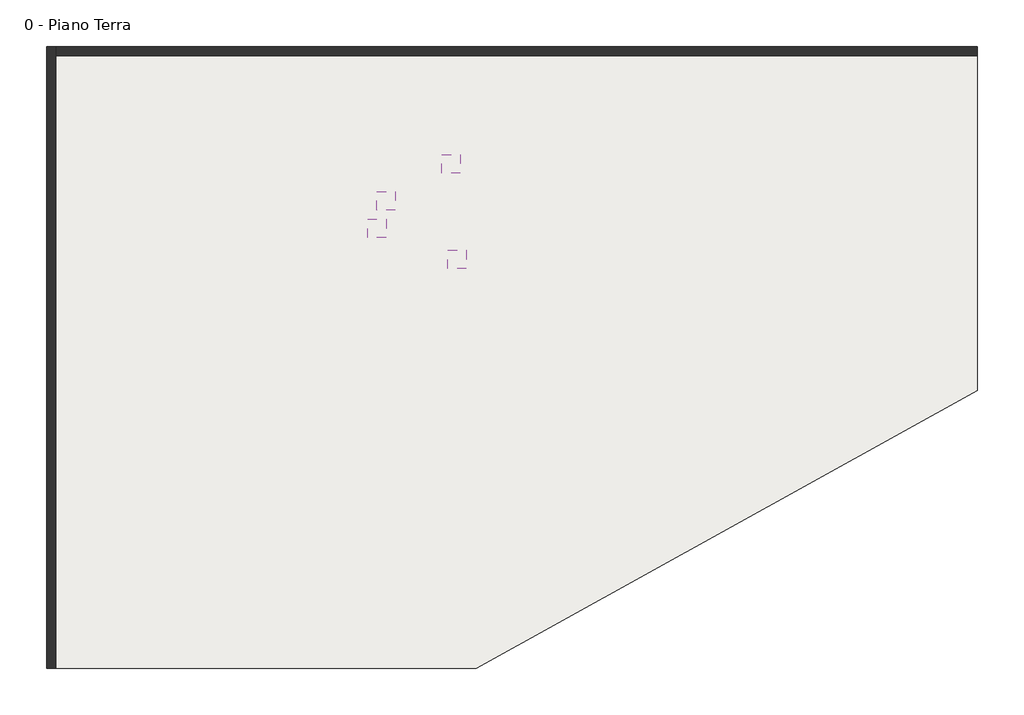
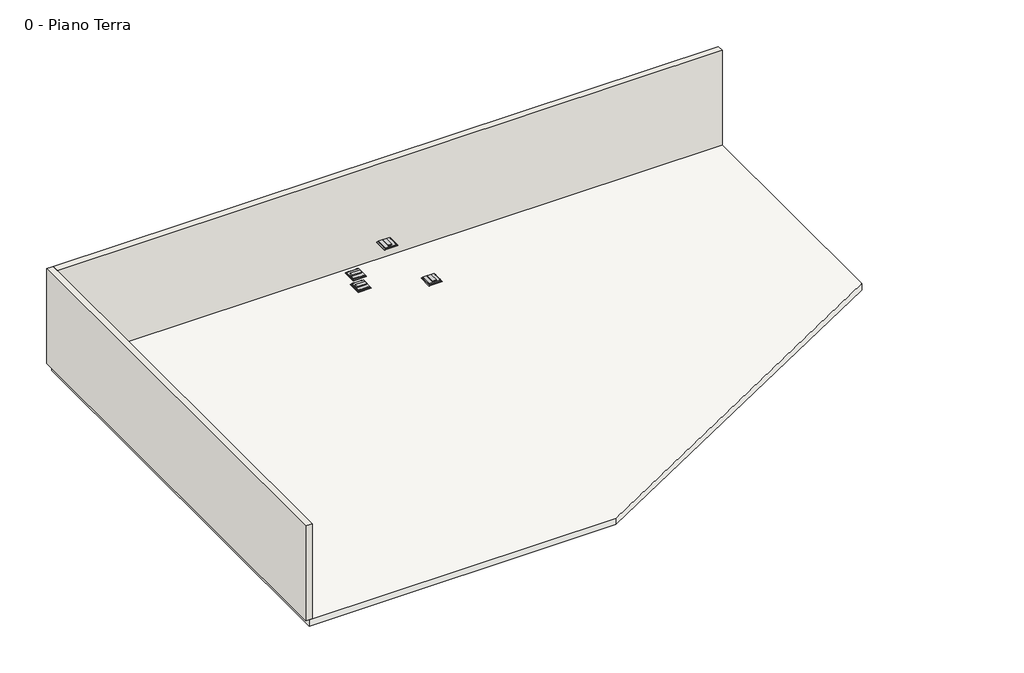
# One storey: 4 light fixtures, 2 walls, 1 slab.
"""IFC4 building model written with IfcOpenShell, lengths in millimetres."""

import ifcopenshell
import ifcopenshell.guid

model = None  # the IFC model being written
_history = None  # IfcOwnerHistory: only IFC2X3 demands one
_inside = {}  # id of a spatial element -> (the spatial element, [elements in it])
_under = {}  # id of a project, library or spatial element -> (it, [spatial elements below it])
_declared = {}  # id of a project -> (the project, [libraries it declares])
_typed = {}  # id of a type object -> (the type object, [elements of that type])
_made_of = {}  # id of a material, layer set ... -> (it, [elements and type objects made of it])


def new_model(schema):
    """Start an empty IFC model of exactly this schema.

    Asked for "IFC4X3", IfcOpenShell would pick the latest addendum, in which some entities
    have other attributes; the version numbers below select the first issue.
    IFC2X3 requires an IfcOwnerHistory on every rooted entity: one is made here for all.
    """
    global model, _history
    if schema == "IFC4X3":
        model = ifcopenshell.file(schema_version=(4, 3, 0, 0))
    else:
        model = ifcopenshell.file(schema=schema)
    _inside.clear()
    _under.clear()
    _declared.clear()
    _typed.clear()
    _made_of.clear()
    _history = None
    if model.schema == "IFC2X3":
        org = make("IfcOrganization", Name="unknown")
        user = make(
            "IfcPersonAndOrganization",
            ThePerson=make("IfcPerson", FamilyName="unknown"),
            TheOrganization=org,
        )
        app = make(
            "IfcApplication",
            ApplicationDeveloper=org,
            Version="unknown",
            ApplicationFullName="unknown",
            ApplicationIdentifier="unknown",
        )
        _history = make(
            "IfcOwnerHistory",
            OwningUser=user,
            OwningApplication=app,
            ChangeAction="ADDED",
            CreationDate=0,
        )
    return model


def make(cls, **values):
    """One entity of the class cls with the attributes given. An attribute that is None is left unset."""
    return model.create_entity(
        cls, **{name: value for name, value in values.items() if value is not None}
    )


def rooted(cls, **values):
    """An entity with a GlobalId (a new one), such as an element, a storey or a relation."""
    return make(cls, GlobalId=ifcopenshell.guid.new(), OwnerHistory=_history, **values)


def si_unit(unit_type, name, prefix=None):
    """IfcSIUnit, for example si_unit("LENGTHUNIT", "METRE", prefix="MILLI")."""
    return make("IfcSIUnit", UnitType=unit_type, Prefix=prefix, Name=name)


def assignment(units):
    """IfcUnitAssignment: the units of a project."""
    return None if units is None else make("IfcUnitAssignment", Units=units)


def point(xyz):
    """IfcCartesianPoint."""
    return None if xyz is None else make("IfcCartesianPoint", Coordinates=xyz)


def direction(xyz):
    """IfcDirection."""
    return None if xyz is None else make("IfcDirection", DirectionRatios=xyz)


def frame(location, z_axis=None, x_axis=None):
    """IfcAxis2Placement3D, a coordinate frame: its origin and axes. An axis left out is left unset."""
    return make(
        "IfcAxis2Placement3D",
        Location=point(location),
        Axis=direction(z_axis),
        RefDirection=direction(x_axis),
    )


def origin():
    """The frame at (0, 0, 0) with its axes left unset."""
    return frame((0.0, 0.0, 0.0))


def origin_with_axes():
    """The frame at (0, 0, 0) with the z axis (0, 0, 1) and the x axis (1, 0, 0) written out."""
    return frame((0.0, 0.0, 0.0), z_axis=(0.0, 0.0, 1.0), x_axis=(1.0, 0.0, 0.0))


def place(relative_to, where):
    """IfcLocalPlacement: puts the frame where relative to a parent placement (None: the world)."""
    return make(
        "IfcLocalPlacement", PlacementRelTo=relative_to, RelativePlacement=where
    )


def context(
    kind, dimensions, precision=None, world=None, true_north=None, identifier=None
):
    """IfcGeometricRepresentationContext, for example the 3D "Model" context."""
    return make(
        "IfcGeometricRepresentationContext",
        ContextIdentifier=identifier,
        ContextType=kind,
        CoordinateSpaceDimension=dimensions,
        Precision=precision,
        WorldCoordinateSystem=world,
        TrueNorth=true_north,
    )


def project(units=None, contexts=None):
    """IfcProject with its units and contexts."""
    return rooted(
        "IfcProject",
        Name="project",
        RepresentationContexts=contexts,
        UnitsInContext=assignment(units),
    )


def spatial(cls, under=None, at=None, **own):
    """A site, building, storey or space (cls), placed at a placement, below another one or the project."""
    s = rooted(cls, ObjectPlacement=at, **own)
    if under is not None:
        _under.setdefault(under.id(), (under, []))[1].append(s)
    return s


def polyline(points):
    """IfcPolyline through the points."""
    return make("IfcPolyline", Points=[point(p) for p in points])


def outline(outer, holes=None, kind="AREA"):
    """IfcArbitraryClosedProfileDef: a profile drawn as a closed curve; with holes, ...WithVoids."""
    if holes is None:
        return make("IfcArbitraryClosedProfileDef", ProfileType=kind, OuterCurve=outer)
    return make(
        "IfcArbitraryProfileDefWithVoids",
        ProfileType=kind,
        OuterCurve=outer,
        InnerCurves=holes,
    )


def extrude(swept, where, along, depth):
    """IfcExtrudedAreaSolid: the profile swept, set in the frame where, extruded along a direction by depth."""
    return make(
        "IfcExtrudedAreaSolid",
        SweptArea=swept,
        Position=where,
        ExtrudedDirection=direction(along),
        Depth=depth,
    )


def faces_of(points, faces, orient=None, outer=None):
    """IfcFace entities. A face is a list of loops; a loop is a list of indices into points, from 0.

    orient and outer hold one flag for each loop. By default every Orientation is true, the
    first loop of a face is its IfcFaceOuterBound and the others are IfcFaceBound.
    """
    made = []
    for i, loops in enumerate(faces):
        bounds = []
        for j, loop in enumerate(loops):
            is_outer = j == 0 if outer is None else outer[i][j]
            bounds.append(
                make(
                    "IfcFaceOuterBound" if is_outer else "IfcFaceBound",
                    Bound=make("IfcPolyLoop", Polygon=[points[k] for k in loop]),
                    Orientation=True if orient is None else orient[i][j],
                )
            )
        made.append(make("IfcFace", Bounds=bounds))
    return made


def faceted_brep(points, faces, orient=None, outer=None, voids=None):
    """IfcFacetedBrep: a solid bounded by flat faces; with voids (closed shells), ...WithVoids."""
    shared = [point(p) for p in points]
    hull = make("IfcClosedShell", CfsFaces=faces_of(shared, faces, orient, outer))
    if voids is None:
        return make("IfcFacetedBrep", Outer=hull)
    return make(
        "IfcFacetedBrepWithVoids",
        Outer=hull,
        Voids=[
            make(cls, CfsFaces=faces_of(shared, fs, o, b)) for cls, fs, o, b in voids
        ],
    )


def shape(context_of_items, identifier, shape_type, items):
    """IfcShapeRepresentation: the items that make up one representation, for example the "Body"."""
    return make(
        "IfcShapeRepresentation",
        ContextOfItems=context_of_items,
        RepresentationIdentifier=identifier,
        RepresentationType=shape_type,
        Items=items,
    )


def source(mapping_origin, context_of_items, identifier, shape_type, items):
    """IfcRepresentationMap: a shape defined once, which mapped items show again and again."""
    return make(
        "IfcRepresentationMap",
        MappingOrigin=mapping_origin,
        MappedRepresentation=shape(context_of_items, identifier, shape_type, items),
    )


def transform(
    local_origin,
    x_axis=None,
    y_axis=None,
    z_axis=None,
    scale=None,
    scale2=None,
    scale3=None,
    uniform=True,
):
    """IfcCartesianTransformationOperator3D, or its non-uniform kind. x_axis, y_axis, z_axis: its Axis1, 2, 3."""
    if uniform:
        return make(
            "IfcCartesianTransformationOperator3D",
            Axis1=direction(x_axis),
            Axis2=direction(y_axis),
            LocalOrigin=point(local_origin),
            Scale=scale,
            Axis3=direction(z_axis),
        )
    return make(
        "IfcCartesianTransformationOperator3DnonUniform",
        Axis1=direction(x_axis),
        Axis2=direction(y_axis),
        LocalOrigin=point(local_origin),
        Scale=scale,
        Axis3=direction(z_axis),
        Scale2=scale2,
        Scale3=scale3,
    )


def mapped(mapping_source, mapping_target):
    """IfcMappedItem: shows the shape of a source again, moved by a transform."""
    return make(
        "IfcMappedItem", MappingSource=mapping_source, MappingTarget=mapping_target
    )


def made_of(thing, what):
    """Note that an element or type object is made of a material, layer set ...; save() writes the relation."""
    if what is not None:
        _made_of.setdefault(what.id(), (what, []))[1].append(thing)
    return thing


def element(
    cls,
    number,
    at=None,
    inside=None,
    cuts=None,
    type_object=None,
    material=None,
    context=None,
    identifier="Body",
    shape_type=None,
    held_by="IfcProductDefinitionShape",
    body=None,
    shapes=None,
    **own,
):
    """One element of the class cls, such as IfcWall. Its Tag is "e" and its number.

    at: its placement. inside: the storey or other place that contains it. cuts: it is an
    opening in that element (IfcRelVoidsElement). A single representation is given by context,
    identifier, shape_type and body (its items); several are given by shapes. held_by: the class
    of the entity that holds the representations. save() writes the other relations.
    """
    e = rooted(cls, Tag="e%d" % number, ObjectPlacement=at, **own)
    if body is not None:
        shapes = [shape(context, identifier, shape_type, body)]
    if shapes is not None:
        e.Representation = make(held_by, Representations=shapes)
    if inside is not None:
        _inside.setdefault(inside.id(), (inside, []))[1].append(e)
    if cuts is not None:
        rooted(
            "IfcRelVoidsElement", RelatingBuildingElement=cuts, RelatedOpeningElement=e
        )
    if type_object is not None:
        _typed.setdefault(type_object.id(), (type_object, []))[1].append(e)
    return made_of(e, material)


def aggregate(whole, parts):
    """IfcRelAggregates: a whole, such as a stair, and the parts it consists of."""
    return rooted("IfcRelAggregates", RelatingObject=whole, RelatedObjects=parts)


def save(model, path):
    """Write the relations noted so far, then the file.

    IfcRelAggregates (storeys below a building ...), IfcRelContainedInSpatialStructure (elements
    in a storey), IfcRelDefinesByType, IfcRelAssociatesMaterial and IfcRelDeclares: one each for
    every whole, place, type object, material and project.
    """
    for whole, parts in _under.values():
        aggregate(whole, parts)
    for where, things in _inside.values():
        rooted(
            "IfcRelContainedInSpatialStructure",
            RelatedElements=things,
            RelatingStructure=where,
        )
    for kind, things in _typed.values():
        rooted("IfcRelDefinesByType", RelatedObjects=things, RelatingType=kind)
    for what, things in _made_of.values():
        rooted("IfcRelAssociatesMaterial", RelatedObjects=things, RelatingMaterial=what)
    for by, libraries in _declared.values():
        rooted("IfcRelDeclares", RelatingContext=by, RelatedDefinitions=libraries)
    model.write(path)


def light_fixture_1bb1707f(model_context):
    return source(origin(), model_context, "Body", "SolidModel", [
        faceted_brep([(600.0, -12.0, 83.375), (600.0, -12.0, 94.5), (600.0, -588.0, 94.5), (600.0, -588.0, 83.375), (0.0, -12.0, 83.375), (0.0, -588.0, 83.375), (0.0, -588.0, 94.5), (0.0, -12.0, 94.5), (598.0, -12.0, 83.375), (2.0, -12.0, 83.375), (598.0, -586.0, 94.5), (2.0, -586.0, 94.5), (2.0, -14.0, 94.5), (598.0, -14.0, 94.5), (598.0, -14.0, 85.375), (2.0, -14.0, 85.375), (598.0, -586.0, 85.375), (2.0, -586.0, 85.375), (2.0, -588.0, 83.375), (598.0, -588.0, 83.375)], [[[0, 1, 2, 3]], [[4, 5, 6, 7]], [[7, 1, 0, 8, 9, 4]], [[7, 6, 2, 1], [10, 11, 12, 13]], [[14, 13, 12, 15]], [[16, 14, 15, 17]], [[10, 16, 17, 11]], [[3, 2, 6, 5, 18, 19]], [[0, 3, 19, 18, 5, 4, 9, 8]], [[10, 13, 14, 16]], [[12, 11, 17, 15]]]),
        extrude(outline(polyline([(376.0, -512.0), (224.0, -512.0), (224.0, -88.0), (376.0, -88.0), (376.0, -512.0)])), origin_with_axes(), (0.0, 0.0, 1.0), 47.5),
        extrude(outline(polyline([(35.0, -100.0), (49.0, -100.0), (49.0, -150.0), (35.0, -150.0), (35.0, -100.0)])), frame((0.0, 0.0, 47.5), z_axis=(0.0, 0.0, 1.0), x_axis=(1.0, 0.0, 0.0)), (0.0, 0.0, 1.0), 5.0),
        extrude(outline(polyline([(49.0, -500.0), (35.0, -500.0), (35.0, -450.0), (49.0, -450.0), (49.0, -500.0)])), frame((0.0, 0.0, 47.5), z_axis=(0.0, 0.0, 1.0), x_axis=(1.0, 0.0, 0.0)), (0.0, 0.0, 1.0), 5.0),
        extrude(outline(polyline([(551.0, -100.0), (565.0, -100.0), (565.0, -150.0), (551.0, -150.0), (551.0, -100.0)])), frame((0.0, 0.0, 47.5), z_axis=(0.0, 0.0, 1.0), x_axis=(1.0, 0.0, 0.0)), (0.0, 0.0, 1.0), 5.0),
        extrude(outline(polyline([(565.0, -500.0), (551.0, -500.0), (551.0, -450.0), (565.0, -450.0), (565.0, -500.0)])), frame((0.0, 0.0, 47.5), z_axis=(0.0, 0.0, 1.0), x_axis=(1.0, 0.0, 0.0)), (0.0, 0.0, 1.0), 5.0),
        extrude(outline(polyline([(551.0, -565.0), (49.0, -565.0), (49.0, -35.0), (551.0, -35.0), (551.0, -565.0)])), frame((0.0, 0.0, 47.5), z_axis=(0.0, 0.0, 1.0), x_axis=(1.0, 0.0, 0.0)), (0.0, 0.0, 1.0), 35.875),
        extrude(outline(polyline([(600.0, 0.0), (600.0, -600.0), (0.0, -600.0), (0.0, 0.0), (600.0, 0.0)]), holes=[polyline([(556.0, -44.0), (44.0, -44.0), (44.0, -556.0), (556.0, -556.0), (556.0, -44.0)])]), frame((0.0, 0.0, 94.5), z_axis=(0.0, 0.0, 1.0), x_axis=(1.0, 0.0, 0.0)), (0.0, 0.0, 1.0), 15.5),
        extrude(outline(polyline([(556.0, -44.0), (556.0, -556.0), (44.0, -556.0), (44.0, -44.0), (556.0, -44.0)])), frame((0.0, 0.0, 94.5), z_axis=(0.0, 0.0, 1.0), x_axis=(1.0, 0.0, 0.0)), (0.0, 0.0, 1.0), 15.5),
    ])


def light_fixture_02ca46bd(model_context):
    return source(origin(), model_context, "Body", "SolidModel", [
        extrude(outline(polyline([(212.0, 76.0), (212.0, -76.0), (-212.0, -76.0), (-212.0, 76.0), (212.0, 76.0)])), frame((0.0, 0.0, -110.0), z_axis=(0.0, 0.0, 1.0), x_axis=(1.0, 0.0, 0.0)), (0.0, 0.0, 1.0), 51.0),
        extrude(outline(polyline([(-200.0, -265.0), (-200.0, -251.0), (-150.0, -251.0), (-150.0, -265.0), (-200.0, -265.0)])), frame((0.0, 0.0, -59.0), z_axis=(0.0, 0.0, 1.0), x_axis=(1.0, 0.0, 0.0)), (0.0, 0.0, 1.0), 5.9541326),
        extrude(outline(polyline([(200.0, -251.0), (200.0, -265.0), (150.0, -265.0), (150.0, -251.0), (200.0, -251.0)])), frame((0.0, 0.0, -59.0), z_axis=(0.0, 0.0, 1.0), x_axis=(1.0, 0.0, 0.0)), (0.0, 0.0, 1.0), 5.9541326),
        extrude(outline(polyline([(-200.0, 251.0), (-200.0, 265.0), (-150.0, 265.0), (-150.0, 251.0), (-200.0, 251.0)])), frame((0.0, 0.0, -59.0), z_axis=(0.0, 0.0, 1.0), x_axis=(1.0, 0.0, 0.0)), (0.0, 0.0, 1.0), 5.9541326),
        extrude(outline(polyline([(200.0, 265.0), (200.0, 251.0), (150.0, 251.0), (150.0, 265.0), (200.0, 265.0)])), frame((0.0, 0.0, -59.0), z_axis=(0.0, 0.0, 1.0), x_axis=(1.0, 0.0, 0.0)), (0.0, 0.0, 1.0), 5.9541326),
        extrude(outline(polyline([(256.0, 251.0), (256.0, -251.0), (-256.0, -251.0), (-256.0, 251.0), (256.0, 251.0)])), frame((0.0, 0.0, -59.0), z_axis=(0.0, 0.0, 1.0), x_axis=(1.0, 0.0, 0.0)), (0.0, 0.0, 1.0), 42.0955541),
        extrude(outline(polyline([(265.0, -16.9044459), (-265.0, -16.9044459), (-265.0, -5.0), (-263.0, -5.0), (-263.0, -14.9044459), (263.0, -14.9044459), (263.0, -5.0), (265.0, -5.0), (265.0, -16.9044459)])), frame((-263.0, 0.0, 0.0), z_axis=(1.0, 0.0, 0.0), x_axis=(0.0, 1.0, 0.0)), (0.0, 0.0, 1.0), 526.0),
        extrude(outline(polyline([(256.0, 256.0), (256.0, -256.0), (-256.0, -256.0), (-256.0, 256.0), (256.0, 256.0)])), frame((0.0, 0.0, -5.0), z_axis=(0.0, 0.0, 1.0), x_axis=(1.0, 0.0, 0.0)), (0.0, 0.0, 1.0), 5.0),
        faceted_brep([(263.0, 265.0, -16.9044459), (263.0, -265.0, -16.9044459), (263.0, -265.0, -5.0), (263.0, 265.0, -5.0), (265.0, -265.0, -16.9044459), (265.0, 265.0, -16.9044459), (265.0, 265.0, -5.0), (265.0, -265.0, -5.0), (300.0, 300.0, 0.0), (-300.0, 300.0, 0.0), (-300.0, -300.0, 0.0), (300.0, -300.0, 0.0), (256.0, 256.0, 0.0), (256.0, -256.0, 0.0), (-256.0, -256.0, 0.0), (-256.0, 256.0, 0.0), (-263.0, -265.0, -16.9044459), (-263.0, 265.0, -16.9044459), (-263.0, 265.0, -5.0), (-263.0, -265.0, -5.0), (-265.0, 265.0, -16.9044459), (-265.0, -265.0, -16.9044459), (-265.0, -265.0, -5.0), (-265.0, 265.0, -5.0), (300.0, 300.0, -5.0), (300.0, -300.0, -5.0), (-300.0, -300.0, -5.0), (-300.0, 300.0, -5.0), (256.0, 256.0, -5.0), (-256.0, 256.0, -5.0), (-256.0, -256.0, -5.0), (256.0, -256.0, -5.0)], [[[0, 1, 2, 3]], [[4, 5, 6, 7]], [[1, 4, 7, 2]], [[1, 0, 5, 4]], [[5, 0, 3, 6]], [[8, 9, 10, 11], [12, 13, 14, 15]], [[16, 17, 18, 19]], [[20, 21, 22, 23]], [[21, 16, 19, 22]], [[17, 16, 21, 20]], [[17, 20, 23, 18]], [[24, 25, 26, 27], [3, 2, 7, 6], [19, 18, 23, 22], [28, 29, 30, 31]], [[9, 8, 24, 27]], [[10, 9, 27, 26]], [[11, 10, 26, 25]], [[8, 11, 25, 24]], [[13, 12, 28, 31]], [[14, 13, 31, 30]], [[15, 14, 30, 29]], [[12, 15, 29, 28]]]),
    ])


model = new_model("IFC4")

# Units and contexts
model_context = context("Model", 3, world=origin())
ifc_project = project(units=[si_unit("LENGTHUNIT", "METRE", prefix="MILLI")], contexts=[model_context])

# Site, building, storey
site = spatial("IfcSite", under=ifc_project)
building = spatial("IfcBuilding", under=site)
storey = spatial("IfcBuildingStorey", under=building, Name="0 - Piano Terra", Elevation=0.0)

# Light fixtures
placement = place(None, origin())
light_fixture_shape = light_fixture_1bb1707f(model_context)
element("IfcLightFixture", 1, ObjectType="TAURUS_CLIP_ATENALUX_MOT : 32W LED-F 4000K IRC_90 MOT RAL 9003 OPACO IP65", at=placement, inside=storey, context=model_context, shape_type="MappedRepresentation", body=[
    mapped(light_fixture_shape, transform((-2205.4723603, 5749.7945472, 3500.0), x_axis=(0.0, -1.0, 0.0), y_axis=(-1.0, 0.0, 0.0), z_axis=(0.0, 0.0, -1.0))),
])
element("IfcLightFixture", 2, ObjectType="TAURUS_CLIP_ATENALUX_MOT : 32W LED-F 4000K IRC_90 MOT RAL 9003 OPACO IP65", at=placement, inside=storey, context=model_context, shape_type="MappedRepresentation", body=[
    mapped(light_fixture_shape, transform((-105.4723603, 6349.7945472, 3500.0), x_axis=(1.0, 0.0, 0.0), y_axis=(0.0, -1.0, 0.0), z_axis=(0.0, 0.0, -1.0))),
])
light_fixture_2_shape = light_fixture_02ca46bd(model_context)
element("IfcLightFixture", 3, ObjectType="TAURUS_CLIP_ATENALUX_MOT-In : 32W LED-F 4000K IRC_90 MOT RAL 9003 OPACO IP65", at=placement, inside=storey, context=model_context, shape_type="MappedRepresentation", body=[
    mapped(light_fixture_2_shape, transform((-2205.4723603, 4549.7945472, 3500.0), x_axis=(-1.0, 0.0, 0.0), y_axis=(0.0, 1.0, 0.0), z_axis=(0.0, 0.0, -1.0))),
])
element("IfcLightFixture", 4, ObjectType="TAURUS_CLIP_ATENALUX_MOT-In : 32W LED-F 4000K IRC_90 MOT RAL 9003 OPACO IP65", at=placement, inside=storey, context=model_context, shape_type="MappedRepresentation", body=[
    mapped(light_fixture_2_shape, transform((394.5276397, 3549.7945472, 3500.0), x_axis=(0.0, 1.0, 0.0), y_axis=(1.0, 0.0, 0.0), z_axis=(0.0, 0.0, -1.0))),
])

# Slab
element("IfcSlab", 5, ObjectType="Latero Cementizio - 30 cm", at=placement, inside=storey, context=model_context, shape_type="SweptSolid", body=[
    extrude(outline(polyline([(17244.5276397, 10299.7945472), (17244.5276397, -700.2054528), (1008.0978423, -9700.2054528), (-12755.4723603, -9700.2054528), (-12755.4723603, 10299.7945472), (17244.5276397, 10299.7945472)])), frame((0.0, 0.0, -300.0), z_axis=(0.0, 0.0, 1.0), x_axis=(1.0, 0.0, 0.0)), (0.0, 0.0, 1.0), 300.0),
])

# Walls
element("IfcWall", 6, ObjectType="Generico - 30 cm", at=placement, inside=storey, context=model_context, shape_type="Brep", body=[
    faceted_brep([(-12905.4723603, 10449.7945472, 0.0), (-12905.4723603, -9700.2054528, 0.0), (-12905.4723603, -9700.2054528, 4500.0), (-12905.4723603, 10449.7945472, 4500.0), (-12605.4723603, 10449.7945472, 0.0), (-12605.4723603, 10449.7945472, 4500.0), (-12605.4723603, 10149.7945472, 4500.0), (-12605.4723603, -9700.2054528, 4500.0), (-12605.4723603, -9700.2054528, 0.0), (-12605.4723603, 10149.7945472, 0.0)], [[[0, 1, 2, 3]], [[4, 5, 6, 7, 8, 9]], [[1, 0, 4, 9, 8]], [[2, 1, 8, 7]], [[3, 2, 7, 6, 5]], [[0, 3, 5, 4]]]),
])
element("IfcWall", 7, ObjectType="Generico - 30 cm", at=placement, inside=storey, context=model_context, shape_type="SweptSolid", body=[
    extrude(outline(polyline([(-12605.4723603, 10449.7945472), (17244.5276397, 10449.7945472), (17244.5276397, 10149.7945472), (-12605.4723603, 10149.7945472), (-12605.4723603, 10449.7945472)])), origin_with_axes(), (0.0, 0.0, 1.0), 4500.0),
])

save(model, "model.ifc")
